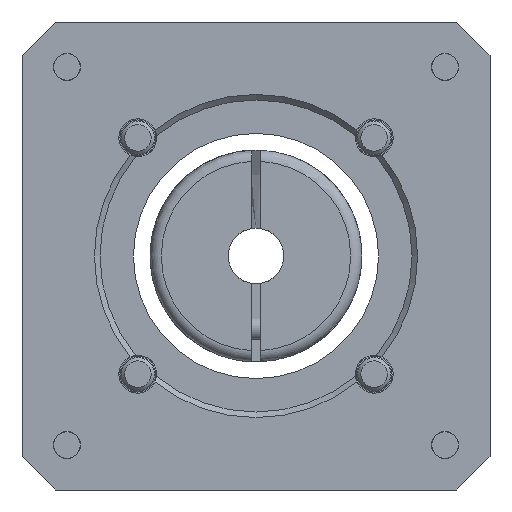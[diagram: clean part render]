
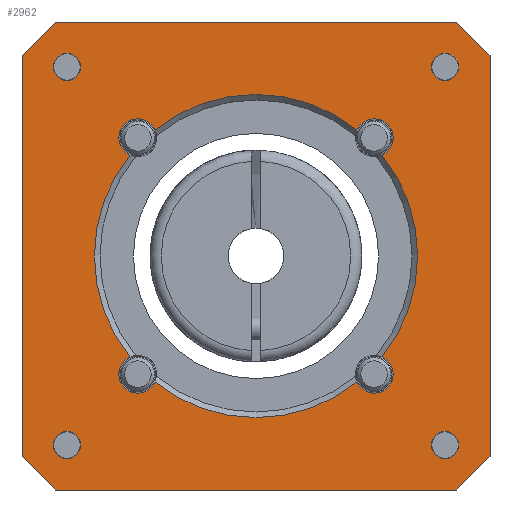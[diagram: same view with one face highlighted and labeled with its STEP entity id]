
A CAD part, front view. The second image highlights one B-rep face of the part: STEP entity #2962.
In plain terms, the highlighted planar face has unit normal (0, -1, 0).
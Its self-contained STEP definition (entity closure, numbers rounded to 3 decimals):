
#201=PLANE($,#3160);
#314=FACE_BOUND($,#1054,.T.);
#315=FACE_BOUND($,#1055,.T.);
#316=FACE_BOUND($,#1056,.T.);
#317=FACE_BOUND($,#1057,.T.);
#318=FACE_BOUND($,#1058,.T.);
#416=LINE($,#4392,#626);
#417=LINE($,#4394,#627);
#418=LINE($,#4396,#628);
#419=LINE($,#4398,#629);
#420=LINE($,#4400,#630);
#421=LINE($,#4402,#631);
#422=LINE($,#4404,#632);
#423=LINE($,#4405,#633);
#626=VECTOR($,#3502,4.243);
#627=VECTOR($,#3503,36.);
#628=VECTOR($,#3504,4.243);
#629=VECTOR($,#3505,36.);
#630=VECTOR($,#3506,4.243);
#631=VECTOR($,#3507,36.);
#632=VECTOR($,#3508,4.243);
#633=VECTOR($,#3509,36.);
#885=FACE_OUTER_BOUND($,#1053,.T.);
#1053=EDGE_LOOP($,(#2172,#2173,#2174,#2175,#2176,#2177,#2178,#2179));
#1054=EDGE_LOOP($,(#2180));
#1055=EDGE_LOOP($,(#2181));
#1056=EDGE_LOOP($,(#2182));
#1057=EDGE_LOOP($,(#2183));
#1058=EDGE_LOOP($,(#2184,#2185,#2186,#2187,#2188,#2189,#2190,#2191));
#1318=CIRCLE($,#3154,14.5);
#1321=CIRCLE($,#3158,1.7);
#1323=CIRCLE($,#3161,1.23);
#1324=CIRCLE($,#3162,1.23);
#1325=CIRCLE($,#3163,1.23);
#1326=CIRCLE($,#3164,1.23);
#1327=CIRCLE($,#3165,1.7);
#1328=CIRCLE($,#3166,14.5);
#1329=CIRCLE($,#3167,1.7);
#1330=CIRCLE($,#3168,14.5);
#1331=CIRCLE($,#3169,1.7);
#1332=CIRCLE($,#3170,14.5);
#1483=VERTEX_POINT($,#4354);
#1485=VERTEX_POINT($,#4362);
#1488=VERTEX_POINT($,#4375);
#1492=VERTEX_POINT($,#4390);
#1493=VERTEX_POINT($,#4391);
#1494=VERTEX_POINT($,#4393);
#1495=VERTEX_POINT($,#4395);
#1496=VERTEX_POINT($,#4397);
#1497=VERTEX_POINT($,#4399);
#1498=VERTEX_POINT($,#4401);
#1499=VERTEX_POINT($,#4403);
#1500=VERTEX_POINT($,#4406);
#1501=VERTEX_POINT($,#4408);
#1502=VERTEX_POINT($,#4410);
#1503=VERTEX_POINT($,#4412);
#1504=VERTEX_POINT($,#4414);
#1505=VERTEX_POINT($,#4416);
#1506=VERTEX_POINT($,#4418);
#1507=VERTEX_POINT($,#4420);
#1508=VERTEX_POINT($,#4422);
#1769=EDGE_CURVE($,#1483,#1485,#1318,.T.);
#1773=EDGE_CURVE($,#1488,#1485,#1321,.T.);
#1778=EDGE_CURVE($,#1492,#1493,#416,.T.);
#1779=EDGE_CURVE($,#1492,#1494,#417,.T.);
#1780=EDGE_CURVE($,#1495,#1494,#418,.T.);
#1781=EDGE_CURVE($,#1495,#1496,#419,.T.);
#1782=EDGE_CURVE($,#1497,#1496,#420,.T.);
#1783=EDGE_CURVE($,#1497,#1498,#421,.T.);
#1784=EDGE_CURVE($,#1499,#1498,#422,.T.);
#1785=EDGE_CURVE($,#1499,#1493,#423,.T.);
#1786=EDGE_CURVE($,#1500,#1500,#1323,.T.);
#1787=EDGE_CURVE($,#1501,#1501,#1324,.T.);
#1788=EDGE_CURVE($,#1502,#1502,#1325,.T.);
#1789=EDGE_CURVE($,#1503,#1503,#1326,.T.);
#1790=EDGE_CURVE($,#1483,#1504,#1327,.T.);
#1791=EDGE_CURVE($,#1505,#1504,#1328,.T.);
#1792=EDGE_CURVE($,#1505,#1506,#1329,.T.);
#1793=EDGE_CURVE($,#1507,#1506,#1330,.T.);
#1794=EDGE_CURVE($,#1507,#1508,#1331,.T.);
#1795=EDGE_CURVE($,#1488,#1508,#1332,.T.);
#2172=ORIENTED_EDGE($,*,*,#1778,.F.);
#2173=ORIENTED_EDGE($,*,*,#1779,.T.);
#2174=ORIENTED_EDGE($,*,*,#1780,.F.);
#2175=ORIENTED_EDGE($,*,*,#1781,.T.);
#2176=ORIENTED_EDGE($,*,*,#1782,.F.);
#2177=ORIENTED_EDGE($,*,*,#1783,.T.);
#2178=ORIENTED_EDGE($,*,*,#1784,.F.);
#2179=ORIENTED_EDGE($,*,*,#1785,.T.);
#2180=ORIENTED_EDGE($,*,*,#1786,.T.);
#2181=ORIENTED_EDGE($,*,*,#1787,.T.);
#2182=ORIENTED_EDGE($,*,*,#1788,.T.);
#2183=ORIENTED_EDGE($,*,*,#1789,.T.);
#2184=ORIENTED_EDGE($,*,*,#1769,.F.);
#2185=ORIENTED_EDGE($,*,*,#1790,.T.);
#2186=ORIENTED_EDGE($,*,*,#1791,.F.);
#2187=ORIENTED_EDGE($,*,*,#1792,.T.);
#2188=ORIENTED_EDGE($,*,*,#1793,.F.);
#2189=ORIENTED_EDGE($,*,*,#1794,.T.);
#2190=ORIENTED_EDGE($,*,*,#1795,.F.);
#2191=ORIENTED_EDGE($,*,*,#1773,.T.);
#2962=ADVANCED_FACE($,(#885,#314,#315,#316,#317,#318),#201,.T.);
#3154=AXIS2_PLACEMENT_3D($,#4363,#3486,#3487);
#3158=AXIS2_PLACEMENT_3D($,#4376,#3494,#3495);
#3160=AXIS2_PLACEMENT_3D($,#4389,#3500,#3501);
#3161=AXIS2_PLACEMENT_3D($,#4407,#3510,#3511);
#3162=AXIS2_PLACEMENT_3D($,#4409,#3512,#3513);
#3163=AXIS2_PLACEMENT_3D($,#4411,#3514,#3515);
#3164=AXIS2_PLACEMENT_3D($,#4413,#3516,#3517);
#3165=AXIS2_PLACEMENT_3D($,#4415,#3518,#3519);
#3166=AXIS2_PLACEMENT_3D($,#4417,#3520,#3521);
#3167=AXIS2_PLACEMENT_3D($,#4419,#3522,#3523);
#3168=AXIS2_PLACEMENT_3D($,#4421,#3524,#3525);
#3169=AXIS2_PLACEMENT_3D($,#4423,#3526,#3527);
#3170=AXIS2_PLACEMENT_3D($,#4424,#3528,#3529);
#3486=DIRECTION('center_axis',(0.,-1.,0.));
#3487=DIRECTION('ref_axis',(-1.,0.,0.));
#3494=DIRECTION('center_axis',(0.,1.,0.));
#3495=DIRECTION('ref_axis',(-1.,0.,0.));
#3500=DIRECTION('center_axis',(0.,-1.,0.));
#3501=DIRECTION('ref_axis',(0.,0.,-1.));
#3502=DIRECTION($,(0.707,0.,-0.707));
#3503=DIRECTION($,(-1.,0.,0.));
#3504=DIRECTION($,(0.707,0.,0.707));
#3505=DIRECTION($,(0.,0.,-1.));
#3506=DIRECTION($,(-0.707,0.,0.707));
#3507=DIRECTION($,(1.,0.,0.));
#3508=DIRECTION($,(-0.707,0.,-0.707));
#3509=DIRECTION($,(0.,0.,1.));
#3510=DIRECTION('center_axis',(0.,1.,0.));
#3511=DIRECTION('ref_axis',(1.,0.,0.));
#3512=DIRECTION('center_axis',(0.,1.,0.));
#3513=DIRECTION('ref_axis',(0.,0.,-1.));
#3514=DIRECTION('center_axis',(0.,1.,0.));
#3515=DIRECTION('ref_axis',(-1.,0.,0.));
#3516=DIRECTION('center_axis',(0.,1.,0.));
#3517=DIRECTION('ref_axis',(0.,0.,1.));
#3518=DIRECTION('center_axis',(0.,1.,0.));
#3519=DIRECTION('ref_axis',(0.,0.,1.));
#3520=DIRECTION('center_axis',(0.,-1.,0.));
#3521=DIRECTION('ref_axis',(1.,0.,0.));
#3522=DIRECTION('center_axis',(0.,1.,0.));
#3523=DIRECTION('ref_axis',(1.,0.,0.));
#3524=DIRECTION('center_axis',(0.,-1.,0.));
#3525=DIRECTION('ref_axis',(-1.,0.,0.));
#3526=DIRECTION('center_axis',(0.,1.,0.));
#3527=DIRECTION('ref_axis',(0.,0.,-1.));
#3528=DIRECTION('center_axis',(0.,-1.,0.));
#3529=DIRECTION('ref_axis',(-1.,0.,0.));
#4354=CARTESIAN_POINT('',(9.063,0.,11.319));
#4362=CARTESIAN_POINT('',(-9.063,0.,11.319));
#4363=CARTESIAN_POINT('Origin',(0.,0.,0.));
#4375=CARTESIAN_POINT('',(-11.319,0.,9.063));
#4376=CARTESIAN_POINT('Origin',(-10.607,0.,10.607));
#4389=CARTESIAN_POINT('Origin',(0.,0.,0.));
#4390=CARTESIAN_POINT('',(18.,0.,21.));
#4391=CARTESIAN_POINT('',(21.,0.,18.));
#4392=CARTESIAN_POINT($,(19.5,0.,19.5));
#4393=CARTESIAN_POINT('',(-18.,0.,21.));
#4394=CARTESIAN_POINT($,(21.,0.,21.));
#4395=CARTESIAN_POINT('',(-21.,0.,18.));
#4396=CARTESIAN_POINT($,(-19.5,0.,19.5));
#4397=CARTESIAN_POINT('',(-21.,0.,-18.));
#4398=CARTESIAN_POINT($,(-21.,0.,21.));
#4399=CARTESIAN_POINT('',(-18.,0.,-21.));
#4400=CARTESIAN_POINT($,(-19.5,0.,-19.5));
#4401=CARTESIAN_POINT('',(18.,0.,-21.));
#4402=CARTESIAN_POINT($,(-21.,0.,-21.));
#4403=CARTESIAN_POINT('',(21.,0.,-18.));
#4404=CARTESIAN_POINT($,(19.5,0.,-19.5));
#4405=CARTESIAN_POINT($,(21.,0.,-21.));
#4406=CARTESIAN_POINT('',(15.741,0.,-16.971));
#4407=CARTESIAN_POINT('Origin',(16.971,0.,-16.971));
#4408=CARTESIAN_POINT('',(-16.971,0.,-15.741));
#4409=CARTESIAN_POINT('Origin',(-16.971,0.,-16.971));
#4410=CARTESIAN_POINT('',(-15.741,0.,16.971));
#4411=CARTESIAN_POINT('Origin',(-16.971,0.,16.971));
#4412=CARTESIAN_POINT('',(16.971,0.,15.741));
#4413=CARTESIAN_POINT('Origin',(16.971,0.,16.971));
#4414=CARTESIAN_POINT('',(11.319,0.,9.063));
#4415=CARTESIAN_POINT('Origin',(10.607,0.,10.607));
#4416=CARTESIAN_POINT('',(11.319,0.,-9.063));
#4417=CARTESIAN_POINT('Origin',(0.,0.,0.));
#4418=CARTESIAN_POINT('',(9.063,0.,-11.319));
#4419=CARTESIAN_POINT('Origin',(10.607,0.,-10.607));
#4420=CARTESIAN_POINT('',(-9.063,0.,-11.319));
#4421=CARTESIAN_POINT('Origin',(0.,0.,0.));
#4422=CARTESIAN_POINT('',(-11.319,0.,-9.063));
#4423=CARTESIAN_POINT('Origin',(-10.607,0.,-10.607));
#4424=CARTESIAN_POINT('Origin',(0.,0.,0.));
